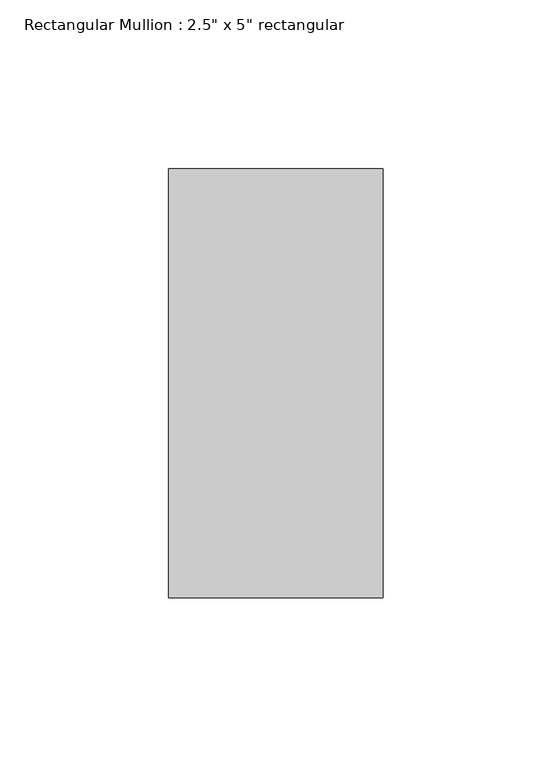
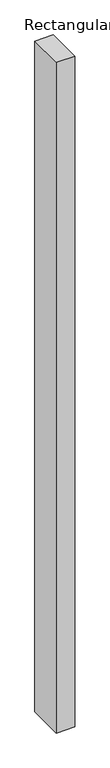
"""IFC4 building model written with IfcOpenShell, lengths in millimetres: member geometry."""

from ifc_helpers import new_model, si_unit, frame, origin, place, context, project, spatial, polyline, outline, extrude, source, transform, mapped, element, save


def member_3b285806(model_context):
    return source(origin(), model_context, "Body", "SweptSolid", [
        extrude(outline(polyline([(0.0, 63.5), (0.0, -63.5), (-63.5, -63.5), (-63.5, 63.5), (0.0, 63.5)])), frame((0.0, 0.0, -2444.7500001), z_axis=(0.0, 0.0, 1.0), x_axis=(1.0, 0.0, 0.0)), (0.0, 0.0, 1.0), 2444.7500001),
    ])


if __name__ == "__main__":
    model = new_model("IFC4")
    model_context = context("Model", 3, world=origin())
    ifc_project = project(units=[si_unit("LENGTHUNIT", "METRE", prefix="MILLI")], contexts=[model_context])
    site = spatial("IfcSite", under=ifc_project)
    building = spatial("IfcBuilding", under=site)
    placement = place(None, origin())
    member_shape = member_3b285806(model_context)
    element("IfcMember", 1, ObjectType="Rectangular Mullion : 2.5\" x 5\" rectangular", at=placement, inside=building, context=model_context, shape_type="MappedRepresentation", body=[
        mapped(member_shape, transform((0.0, 0.0, 0.0), x_axis=(1.0, 0.0, 0.0), y_axis=(0.0, 1.0, 0.0), z_axis=(0.0, 0.0, 1.0))),
    ])
    save(model, "model.ifc")
